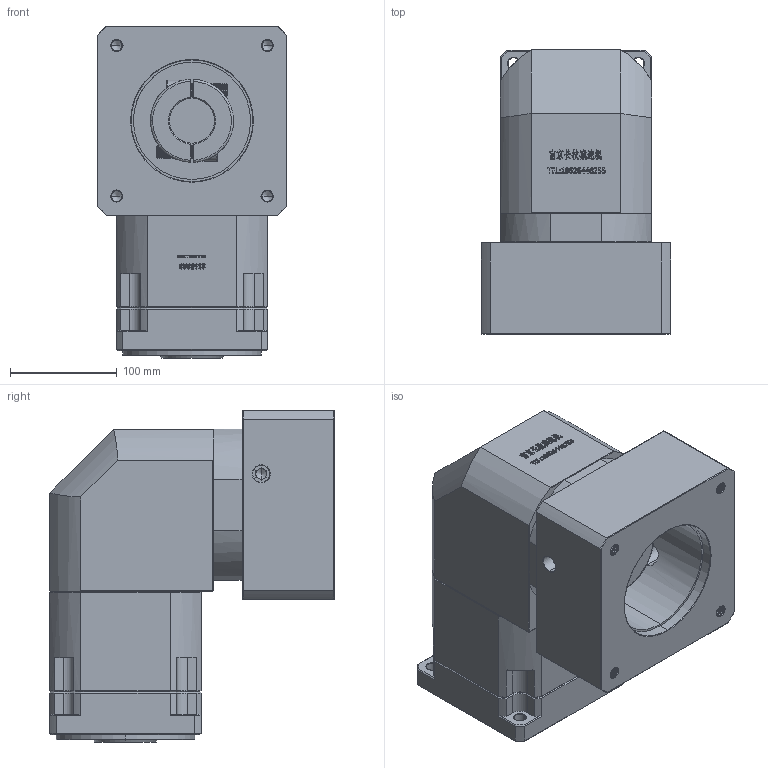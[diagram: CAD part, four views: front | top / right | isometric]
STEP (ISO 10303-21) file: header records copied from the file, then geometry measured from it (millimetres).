
FILE_DESCRIPTION (( 'STEP AP214' ), '1' );
FILE_NAME ('ZBR142A-K35-L2-42-114.3-200-M12.step', '2023-03-18T09:27:34', ( '' ), ( '' ), 'SwSTEP 2.0', 'SolidWorks 2016', '' );
FILE_SCHEMA (( 'AUTOMOTIVE_DESIGN' ));
Length unit declared in the file: millimetre
Products named in the file (1): ZBR142A-K35-L2-42-114.3-200-M12
Bounding box: 178 x 267 x 311.7 mm (x, y, z)
Volume: 7388383.1 mm3; surface area: 477075.3 mm2
Topology: 6 solids, 6 shells, 2841 faces, 7563 edges, 4870 vertices
Faces by surface type: plane 1533, bspline 585, cylinder 377, cone 326, torus 20
Entity records: 155624 total; most frequent: CARTESIAN_POINT 58089, ORIENTED_EDGE 15070, DIRECTION 11427, EDGE_CURVE 7535, LINE 5155, VECTOR 5155, VERTEX_POINT 4870, AXIS2_PLACEMENT_3D 3136
